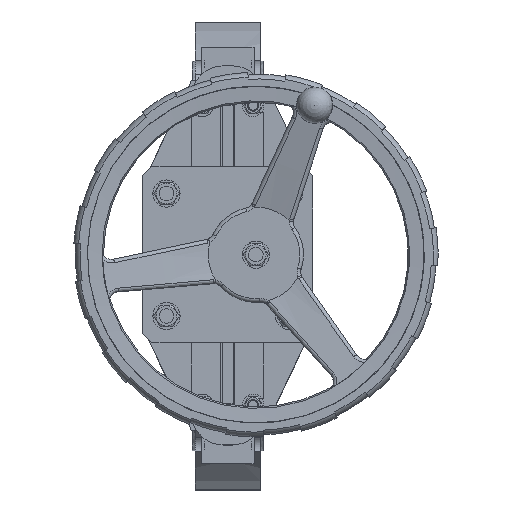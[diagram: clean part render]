
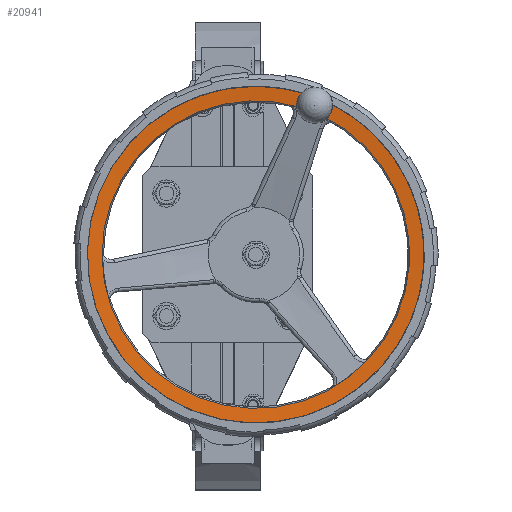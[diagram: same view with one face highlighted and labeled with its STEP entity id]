
A CAD part, top view. The second image highlights one B-rep face of the part: STEP entity #20941.
In plain terms, the highlighted conical face has half-angle 85 degrees and reference radius 185.695 mm.
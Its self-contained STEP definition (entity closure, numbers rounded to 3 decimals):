
#246=B_SPLINE_CURVE_WITH_KNOTS('',3,(#37608,#37609,#37610,#37611,#37612,
#37613),.UNSPECIFIED.,.F.,.F.,(4,2,4),(0.009,0.016,
0.017),.UNSPECIFIED.);
#247=B_SPLINE_CURVE_WITH_KNOTS('',3,(#37617,#37618,#37619,#37620,#37621,
#37622,#37623),.UNSPECIFIED.,.F.,.F.,(4,3,4),(0.015,0.016,
0.023),.UNSPECIFIED.);
#248=B_SPLINE_CURVE_WITH_KNOTS('',3,(#37624,#37625,#37626,#37627,#37628,
#37629,#37630,#37631),.UNSPECIFIED.,.F.,.F.,(4,2,2,4),(-4.4,
-4.274,-3.739,-3.6),.UNSPECIFIED.);
#249=B_SPLINE_CURVE_WITH_KNOTS('',3,(#37632,#37633,#37634,#37635,#37636,
#37637,#37638,#37639,#37640),.UNSPECIFIED.,.F.,.F.,(4,2,3,4),(-0.674,
-0.535,0.,0.126),.UNSPECIFIED.);
#3849=CONICAL_SURFACE('',#22316,185.695,85.);
#4423=FACE_OUTER_BOUND('',#5758,.T.);
#5758=EDGE_LOOP('',(#14206,#14207,#14208,#14209,#14210,#14211));
#7498=CIRCLE('',#22278,169.584);
#7529=CIRCLE('',#22317,185.695);
#8804=VERTEX_POINT('',#33351);
#8805=VERTEX_POINT('',#33358);
#8860=VERTEX_POINT('',#37606);
#8861=VERTEX_POINT('',#37607);
#8862=VERTEX_POINT('',#37614);
#8863=VERTEX_POINT('',#37616);
#10959=EDGE_CURVE('',#8805,#8804,#7498,.T.);
#11038=EDGE_CURVE('',#8860,#8861,#246,.T.);
#11039=EDGE_CURVE('',#8862,#8860,#7529,.T.);
#11040=EDGE_CURVE('',#8863,#8862,#247,.T.);
#11041=EDGE_CURVE('',#8863,#8805,#248,.T.);
#11042=EDGE_CURVE('',#8804,#8861,#249,.T.);
#14206=ORIENTED_EDGE('',*,*,#11038,.F.);
#14207=ORIENTED_EDGE('',*,*,#11039,.F.);
#14208=ORIENTED_EDGE('',*,*,#11040,.F.);
#14209=ORIENTED_EDGE('',*,*,#11041,.T.);
#14210=ORIENTED_EDGE('',*,*,#10959,.T.);
#14211=ORIENTED_EDGE('',*,*,#11042,.T.);
#20941=ADVANCED_FACE('',(#4423),#3849,.F.);
#22278=AXIS2_PLACEMENT_3D('',#33359,#24895,#24896);
#22316=AXIS2_PLACEMENT_3D('',#37605,#24972,#24973);
#22317=AXIS2_PLACEMENT_3D('',#37615,#24974,#24975);
#24895=DIRECTION('center_axis',(0.,0.,
-1.));
#24896=DIRECTION('ref_axis',(-0.93,0.367,0.));
#24972=DIRECTION('center_axis',(0.,0.,
1.));
#24973=DIRECTION('ref_axis',(0.93,-0.367,0.));
#24974=DIRECTION('center_axis',(0.,0.,
-1.));
#24975=DIRECTION('ref_axis',(-0.93,0.367,0.));
#33351=CARTESIAN_POINT('',(126.123,162.007,832.459));
#33358=CARTESIAN_POINT('',(149.854,152.657,832.459));
#33359=CARTESIAN_POINT('Origin',(76.,0.,
832.459));
#37605=CARTESIAN_POINT('Origin',(76.,0.,
833.868));
#37606=CARTESIAN_POINT('',(129.892,177.703,833.868));
#37607=CARTESIAN_POINT('',(126.927,170.178,833.163));
#37608=CARTESIAN_POINT('Ctrl Pts',(129.892,177.703,833.868));
#37609=CARTESIAN_POINT('Ctrl Pts',(129.036,175.529,833.664));
#37610=CARTESIAN_POINT('Ctrl Pts',(128.179,173.355,833.461));
#37611=CARTESIAN_POINT('Ctrl Pts',(127.191,170.847,833.226));
#37612=CARTESIAN_POINT('Ctrl Pts',(127.059,170.512,833.194));
#37613=CARTESIAN_POINT('Ctrl Pts',(126.927,170.178,833.163));
#37614=CARTESIAN_POINT('',(157.804,166.706,833.868));
#37615=CARTESIAN_POINT('Origin',(76.,0.,
833.868));
#37616=CARTESIAN_POINT('',(154.839,159.18,833.163));
#37617=CARTESIAN_POINT('Ctrl Pts',(154.839,159.18,833.163));
#37618=CARTESIAN_POINT('Ctrl Pts',(154.971,159.515,833.194));
#37619=CARTESIAN_POINT('Ctrl Pts',(155.103,159.85,833.226));
#37620=CARTESIAN_POINT('Ctrl Pts',(155.234,160.184,833.257));
#37621=CARTESIAN_POINT('Ctrl Pts',(156.091,162.358,833.461));
#37622=CARTESIAN_POINT('Ctrl Pts',(156.947,164.532,833.664));
#37623=CARTESIAN_POINT('Ctrl Pts',(157.804,166.706,833.868));
#37624=CARTESIAN_POINT('Ctrl Pts',(154.839,159.18,833.163));
#37625=CARTESIAN_POINT('Ctrl Pts',(154.682,158.781,833.126));
#37626=CARTESIAN_POINT('Ctrl Pts',(154.509,158.393,833.088));
#37627=CARTESIAN_POINT('Ctrl Pts',(153.533,156.425,832.896));
#37628=CARTESIAN_POINT('Ctrl Pts',(152.387,154.868,832.73));
#37629=CARTESIAN_POINT('Ctrl Pts',(150.623,153.261,832.536));
#37630=CARTESIAN_POINT('Ctrl Pts',(150.245,152.949,832.497));
#37631=CARTESIAN_POINT('Ctrl Pts',(149.854,152.657,832.459));
#37632=CARTESIAN_POINT('Ctrl Pts',(126.123,162.007,832.459));
#37633=CARTESIAN_POINT('Ctrl Pts',(126.036,162.488,832.497));
#37634=CARTESIAN_POINT('Ctrl Pts',(125.972,162.974,832.536));
#37635=CARTESIAN_POINT('Ctrl Pts',(125.779,165.352,832.73));
#37636=CARTESIAN_POINT('Ctrl Pts',(126.002,167.272,832.896));
#37637=CARTESIAN_POINT('Ctrl Pts',(126.511,168.975,833.052));
#37638=CARTESIAN_POINT('Ctrl Pts',(126.631,169.377,833.088));
#37639=CARTESIAN_POINT('Ctrl Pts',(126.77,169.779,833.126));
#37640=CARTESIAN_POINT('Ctrl Pts',(126.927,170.178,833.163));
